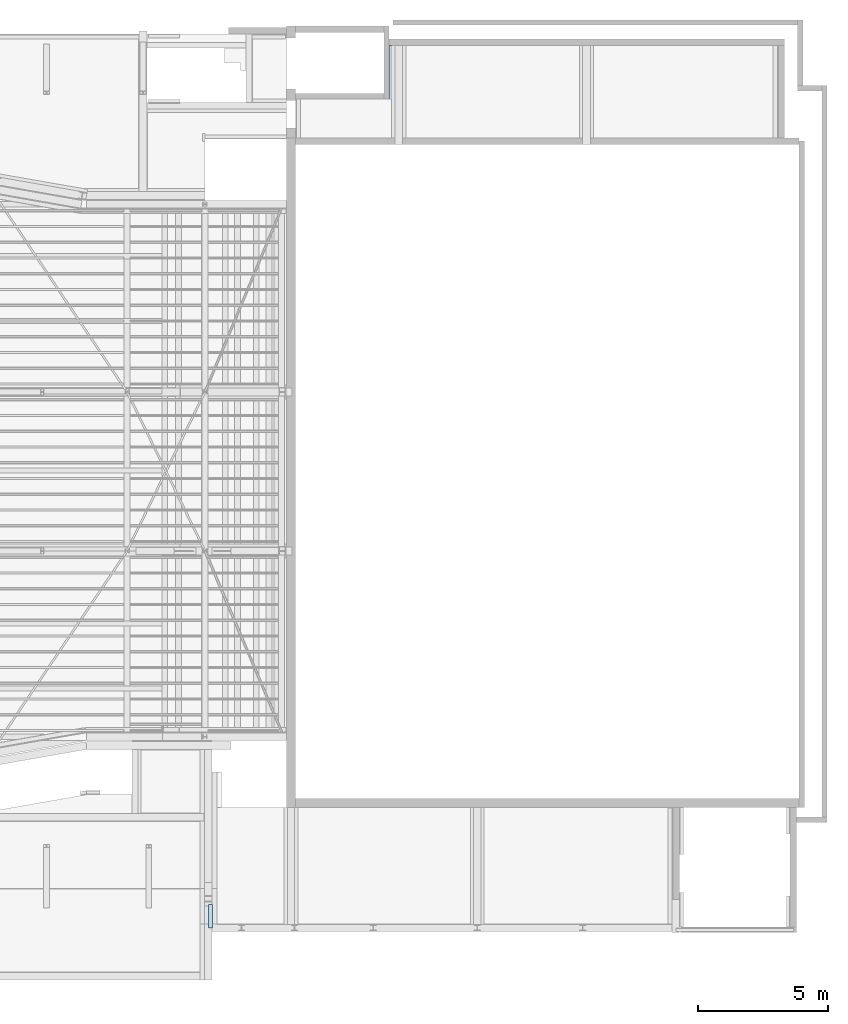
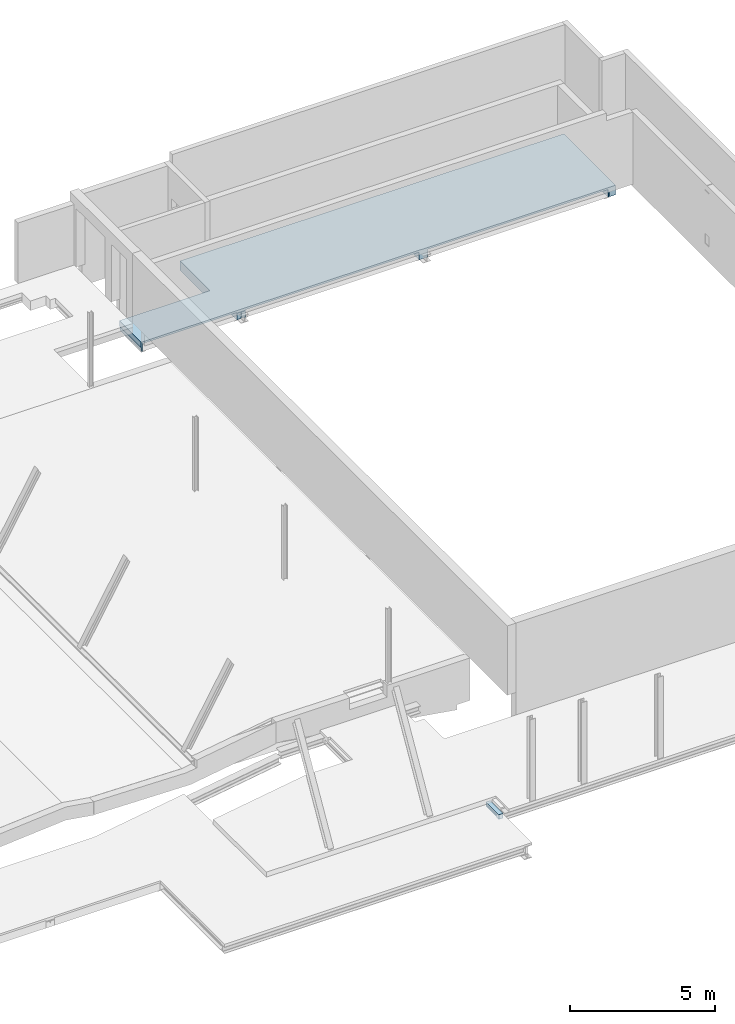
# One storey, part 49 of 50: 2 slabs.
"""IFC2X3 building model written with IfcOpenShell, lengths in millimetres."""

from ifc_helpers import new_model, entity, si_unit, converted_unit, derived_unit, direction, frame, origin, place, context, subcontext, project, spatial, faceted_brep, material, type_object, element, save


model = new_model("IFC2X3")

# Units and contexts
model_context = context("Model", 3, precision=0.01, world=origin(), true_north=direction((6.12303176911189e-17, 1.0)))
body_context = subcontext(model_context, "Body", "Model", "MODEL_VIEW")
ifc_project = project(units=[si_unit("LENGTHUNIT", "METRE", prefix="MILLI"), si_unit("AREAUNIT", "SQUARE_METRE", prefix="MILLI"), si_unit("VOLUMEUNIT", "CUBIC_METRE"), converted_unit("PLANEANGLEUNIT", "DEGREE", entity("IfcRatioMeasure", 0.0174532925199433), si_unit("PLANEANGLEUNIT", "RADIAN"), dimensions=[0, 0, 0, 0, 0, 0, 0]), si_unit("MASSUNIT", "GRAM", prefix="KILO"), derived_unit("MASSDENSITYUNIT", [(si_unit("MASSUNIT", "GRAM", prefix="KILO"), 1), (si_unit("LENGTHUNIT", "METRE"), -3)]), derived_unit("MOMENTOFINERTIAUNIT", [(si_unit("LENGTHUNIT", "METRE"), 4)]), si_unit("TIMEUNIT", "SECOND"), si_unit("FREQUENCYUNIT", "HERTZ"), si_unit("THERMODYNAMICTEMPERATUREUNIT", "DEGREE_CELSIUS"), derived_unit("THERMALTRANSMITTANCEUNIT", [(si_unit("MASSUNIT", "GRAM", prefix="KILO"), 1), (si_unit("THERMODYNAMICTEMPERATUREUNIT", "KELVIN"), -1), (si_unit("TIMEUNIT", "SECOND"), -3)]), derived_unit("VOLUMETRICFLOWRATEUNIT", [(si_unit("LENGTHUNIT", "METRE"), 3), (si_unit("TIMEUNIT", "SECOND"), -1)]), si_unit("ELECTRICCURRENTUNIT", "AMPERE"), si_unit("ELECTRICVOLTAGEUNIT", "VOLT"), si_unit("POWERUNIT", "WATT"), si_unit("FORCEUNIT", "NEWTON", prefix="KILO"), si_unit("ILLUMINANCEUNIT", "LUX"), si_unit("LUMINOUSFLUXUNIT", "LUMEN"), si_unit("LUMINOUSINTENSITYUNIT", "CANDELA"), derived_unit("USERDEFINED", [(si_unit("MASSUNIT", "GRAM", prefix="KILO"), -1), (si_unit("LENGTHUNIT", "METRE"), -2), (si_unit("TIMEUNIT", "SECOND"), 3), (si_unit("LUMINOUSFLUXUNIT", "LUMEN"), 1)]), derived_unit("LINEARVELOCITYUNIT", [(si_unit("LENGTHUNIT", "METRE"), 1), (si_unit("TIMEUNIT", "SECOND"), -1)]), si_unit("PRESSUREUNIT", "PASCAL"), derived_unit("USERDEFINED", [(si_unit("LENGTHUNIT", "METRE"), -2), (si_unit("MASSUNIT", "GRAM", prefix="KILO"), 1), (si_unit("TIMEUNIT", "SECOND"), -2)]), derived_unit("LINEARFORCEUNIT", [(si_unit("MASSUNIT", "GRAM", prefix="KILO"), 1), (si_unit("LENGTHUNIT", "METRE"), 1), (si_unit("TIMEUNIT", "SECOND"), -2), (si_unit("LENGTHUNIT", "METRE"), -1)]), derived_unit("PLANARFORCEUNIT", [(si_unit("MASSUNIT", "GRAM", prefix="KILO"), 1), (si_unit("LENGTHUNIT", "METRE"), 1), (si_unit("TIMEUNIT", "SECOND"), -2), (si_unit("LENGTHUNIT", "METRE"), -2)])], contexts=[model_context])

# Site, building, storey
site_placement = place(None, origin())
site = spatial("IfcSite", under=ifc_project, at=site_placement, Name="Theater aan de Parade", CompositionType="ELEMENT")
building_placement = place(site_placement, origin())
building = spatial("IfcBuilding", under=site, at=building_placement, Name="Theater aan de Parade", CompositionType="ELEMENT")
storey_placement = place(building_placement, frame((0.0, 0.0, 15820.0)))
storey = spatial("IfcBuildingStorey", under=building, at=storey_placement, Name="04 vierde verdieping", CompositionType="ELEMENT", Elevation=15820.0)

# Slabs
ifc_material = material(Name="00_PBT_MAT_beton t.p.g._C30/37")
slab_type_1 = type_object("IfcSlabType", Name="Floor:28_PBT_FL_druklaag_d=80 (=400)_C30/37", PredefinedType="FLOOR")
slab_1_placement = place(storey_placement, origin())
element("IfcSlab", 1, at=slab_1_placement, inside=storey, type_object=slab_type_1, material=ifc_material, Name="Floor:28_PBT_FL_druklaag_d=80 (=400)_C30/37", ObjectType="Floor:28_PBT_FL_druklaag_d=80 (=400)_C30/37", PredefinedType="FLOOR", context=body_context, shape_type="Brep", body=[
    faceted_brep([(67756.256100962, 46761.8723406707, 225.0), (67756.256100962, 45260.0, 225.0), (67731.806201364, 45260.0, 225.0), (67731.806201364, 46761.8723406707, 225.0), (71511.4091214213, 46761.8723406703, 225.0), (71307.0, 46761.8723406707, 225.0), (71307.0, 48822.0, 225.0), (71531.4091214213, 48822.0, 225.0), (71531.4091214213, 45260.0, 225.0), (71511.4091214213, 45260.0, 225.0), (71851.4091214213, 48822.0, 225.0), (71851.4091214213, 45260.0, 225.0), (71831.4091214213, 45260.0, 225.0), (71831.4091214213, 48822.0, 225.0), (79090.0, 48822.0, 225.0), (79090.0, 45260.0, 225.0), (78750.0, 45260.0, 225.0), (78750.0, 48822.0, 225.0), (86279.6182171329, 48822.0, 225.0), (86279.6182171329, 45260.0, 225.0), (86255.0, 45260.0, 225.0), (86255.0, 48822.0, 225.0), (86555.1683175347, 48822.0, 225.0), (86555.1683175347, 45260.0, 225.0), (86305.1683175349, 45260.0, 225.0), (86305.1683175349, 48822.0, 225.0), (86255.0, 45260.0, 545.0), (79090.0, 45260.0, 545.0), (79090.0, 48822.0, 545.0), (86255.0, 48822.0, 545.0), (78750.0, 45260.0, 545.0), (71851.4091214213, 45260.0, 545.0), (71851.4091214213, 48822.0, 545.0), (78750.0, 48822.0, 545.0), (71307.0, 46761.8723406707, 545.0), (71511.4091214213, 46761.8723406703, 545.0), (71511.4091214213, 45260.0, 545.0), (67756.256100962, 45260.0, 545.0), (67756.256100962, 46761.8723406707, 545.0), (67706.2561009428, 46761.8723406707, 625.0), (67706.2561009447, 45260.0, 625.0), (86305.1683175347, 45260.0, 625.0), (86555.1683175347, 45260.0, 625.0), (86555.1683175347, 48822.0, 625.0), (86305.1683175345, 48822.0, 625.0), (71307.0, 48822.0, 625.0), (71307.0, 46761.8723406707, 625.0), (86281.9809881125, 45260.0, 228.414987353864), (86283.7227458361, 45260.0, 230.932404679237), (86284.4455316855, 45260.0, 234.466202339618), (86285.1683175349, 45260.0, 238.0), (86285.1683175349, 45260.0, 391.0), (86287.8043565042, 45260.0, 397.363961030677), (86294.1683175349, 45260.0, 400.0), (86305.1683175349, 45260.0, 400.0), (67706.2561009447, 45260.0, 400.0), (67717.256100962, 45260.0, 400.0), (67723.6200619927, 45260.0, 397.363961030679), (67726.256100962, 45260.0, 391.0), (67726.256100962, 45260.0, 238.0), (67726.9788868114, 45260.0, 234.466202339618), (67727.7016726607, 45260.0, 230.932404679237), (67729.0043020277, 45260.0, 229.049673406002), (71531.4091214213, 45260.0, 239.0), (71648.9091214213, 45260.0, 239.0), (71653.6820921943, 45260.0, 240.977029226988), (71658.4550629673, 45260.0, 242.954058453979), (71663.2280337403, 45260.0, 244.931087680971), (71668.0010045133, 45260.0, 246.908116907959), (71669.9780337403, 45260.0, 251.681087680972), (71671.9550629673, 45260.0, 256.454058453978), (71673.9320921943, 45260.0, 261.227029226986), (71675.9091214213, 45260.0, 266.0), (71675.9091214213, 45260.0, 474.0), (71673.0447060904, 45260.0, 480.915310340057), (71670.5228553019, 45260.0, 487.003596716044), (71668.0010045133, 45260.0, 493.091883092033), (71663.2280337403, 45260.0, 495.068912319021), (71658.4550629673, 45260.0, 497.045941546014), (71653.6820921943, 45260.0, 499.022970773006), (71648.9091214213, 45260.0, 501.0), (71531.4091214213, 45260.0, 501.0), (71531.4091214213, 45260.0, 520.0), (71831.4091214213, 45260.0, 520.0), (71831.4091214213, 45260.0, 501.0), (71713.9091214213, 45260.0, 501.0), (71706.9938110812, 45260.0, 498.135584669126), (71700.9055247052, 45260.0, 495.613733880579), (71694.8172383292, 45260.0, 493.091883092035), (71692.8402091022, 45260.0, 488.318912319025), (71690.8631798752, 45260.0, 483.545941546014), (71688.8861506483, 45260.0, 478.772970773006), (71686.9091214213, 45260.0, 474.0), (71686.9091214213, 45260.0, 266.0), (71689.7735367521, 45260.0, 259.084689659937), (71692.2953875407, 45260.0, 252.99640328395), (71694.8172383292, 45260.0, 246.908116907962), (71699.5902091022, 45260.0, 244.931087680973), (71704.3631798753, 45260.0, 242.954058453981), (71709.1361506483, 45260.0, 240.977029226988), (71713.9091214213, 45260.0, 239.0), (71831.4091214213, 45260.0, 239.0), (67706.2561009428, 46761.8723406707, 400.0), (67706.2561009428, 46761.8723406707, 535.0), (67726.256100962, 46761.8723406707, 391.0), (67723.6200619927, 46761.8723406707, 397.363961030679), (67717.256100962, 46761.8723406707, 400.0), (67729.7539370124, 46761.8723406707, 227.96620233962), (67727.7016726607, 46761.8723406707, 230.932404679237), (67726.9788868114, 46761.8723406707, 234.466202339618), (67726.256100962, 46761.8723406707, 238.0), (71307.0, 46761.8723406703, 535.0), (86305.1683175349, 48822.0, 400.0), (86294.1683175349, 48822.0, 400.0), (86287.8043565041, 48822.0, 397.363961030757), (86285.1683175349, 48822.0, 391.0), (86285.1683175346, 48822.0, 238.0), (86284.4455316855, 48822.0, 234.466202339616), (86283.722745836, 48822.0, 230.932404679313), (86281.6704814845, 48822.0, 227.966202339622), (71831.4091214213, 48822.0, 239.0), (71713.9091214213, 48822.0, 239.0), (71709.1361506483, 48822.0, 240.977029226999), (71704.3631798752, 48822.0, 242.954058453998), (71699.5902091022, 48822.0, 244.931087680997), (71694.8172383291, 48822.0, 246.908116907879), (71692.8402091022, 48822.0, 251.681087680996), (71690.8631798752, 48822.0, 256.454058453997), (71688.8861506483, 48822.0, 261.227029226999), (71686.9091214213, 48822.0, 266.0), (71686.909121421, 48822.0, 474.0), (71688.8861506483, 48822.0, 478.772970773), (71690.8631798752, 48822.0, 483.545941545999), (71692.8402091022, 48822.0, 488.318912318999), (71694.8172383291, 48822.0, 493.091883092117), (71699.5902091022, 48822.0, 495.068912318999), (71704.3631798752, 48822.0, 497.045941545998), (71709.1361506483, 48822.0, 499.022970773), (71713.9091214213, 48822.0, 501.0), (71831.4091214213, 48822.0, 501.0), (71831.4091214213, 48822.0, 520.0), (71531.4091214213, 48822.0, 520.0), (71531.4091214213, 48822.0, 501.0), (71648.9091214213, 48822.0, 501.0), (71653.6820921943, 48822.0, 499.022970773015), (71658.4550629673, 48822.0, 497.045941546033), (71663.2280337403, 48822.0, 495.068912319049), (71668.0010045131, 48822.0, 493.09188309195), (71669.9780337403, 48822.0, 488.318912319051), (71671.9550629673, 48822.0, 483.545941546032), (71673.9320921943, 48822.0, 478.772970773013), (71675.9091214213, 48822.0, 474.0), (71675.909121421, 48822.0, 266.0), (71674.4769137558, 48822.0, 262.542344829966), (71671.9550629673, 48822.0, 256.45405845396), (71669.9780337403, 48822.0, 251.681087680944), (71668.0010045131, 48822.0, 246.908116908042), (71663.2280337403, 48822.0, 244.931087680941), (71658.4550629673, 48822.0, 242.954058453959), (71653.6820921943, 48822.0, 240.977029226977), (71648.9091214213, 48822.0, 239.0), (71531.4091214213, 48822.0, 239.0)], [[[0, 1, 2, 3]], [[4, 5, 6, 7, 8, 9]], [[10, 11, 12, 13]], [[14, 15, 16, 17]], [[18, 19, 20, 21]], [[22, 23, 24, 25]], [[26, 27, 28, 29]], [[30, 31, 32, 33]], [[34, 35, 36, 37, 38]], [[39, 40, 41, 42, 43, 44, 45, 46]], [[20, 19, 47, 48, 49, 50, 51, 52, 53, 54, 24, 23, 42, 41, 40, 55, 56, 57, 58, 59, 60, 61, 62, 2, 1, 37, 36, 9, 8, 63, 64, 65, 66, 67, 68, 69, 70, 71, 72, 73, 74, 75, 76, 77, 78, 79, 80, 81, 82, 83, 84, 85, 86, 87, 88, 89, 90, 91, 92, 93, 94, 95, 96, 97, 98, 99, 100, 101, 12, 11, 31, 30, 16, 15, 27, 26]], [[102, 55, 40, 39, 103]], [[104, 105, 106, 102, 103, 39, 46, 34, 38, 0, 3, 107, 108, 109, 110]], [[6, 5, 111, 34, 46, 45]], [[7, 6, 45, 44, 43, 22, 25, 112, 113, 114, 115, 116, 117, 118, 119, 18, 21, 29, 28, 14, 17, 33, 32, 10, 13, 120, 121, 122, 123, 124, 125, 126, 127, 128, 129, 130, 131, 132, 133, 134, 135, 136, 137, 138, 139, 140, 141, 142, 143, 144, 145, 146, 147, 148, 149, 150, 151, 152, 153, 154, 155, 156, 157, 158, 159, 160, 161]], [[23, 22, 43, 42]], [[110, 59, 58, 104]], [[108, 107, 3, 2, 62, 61]], [[109, 108, 61, 60, 59, 110]], [[106, 56, 55, 102]], [[54, 53, 113, 112]], [[57, 105, 104, 58]], [[56, 106, 105, 57]], [[38, 37, 1, 0]], [[111, 5, 4, 35, 34]], [[84, 83, 140, 139]], [[12, 101, 120, 13]], [[85, 84, 139, 138]], [[81, 80, 143, 142]], [[136, 135, 134, 88, 87, 86, 85, 138, 137]], [[133, 132, 131, 130, 92, 91, 90, 89, 88, 134]], [[93, 92, 130, 129]], [[127, 126, 125, 96, 95, 94, 93, 129, 128]], [[124, 123, 122, 121, 100, 99, 98, 97, 96, 125]], [[101, 100, 121, 120]], [[64, 63, 161, 160]], [[63, 8, 7, 161]], [[82, 81, 142, 141]], [[65, 64, 160, 159, 158, 157, 156, 68, 67, 66]], [[69, 68, 156, 155, 154, 153, 152, 72, 71, 70]], [[73, 72, 152, 151]], [[149, 148, 147, 76, 75, 74, 73, 151, 150]], [[146, 145, 144, 143, 80, 79, 78, 77, 76, 147]], [[83, 82, 141, 140]], [[27, 15, 14, 28]], [[16, 30, 33, 17]], [[4, 9, 36, 35]], [[10, 32, 31, 11]], [[26, 29, 21, 20]], [[24, 54, 112, 25]], [[51, 50, 116, 115]], [[48, 47, 19, 18, 119, 118]], [[49, 48, 118, 117, 116, 50]], [[51, 115, 114, 52]], [[114, 113, 53, 52]]]),
])
slab_type_2 = type_object("IfcSlabType", Name="Floor:28_PBT_FL_druklaag_d=80 (=195)_C30/37", PredefinedType="FLOOR")
slab_2_placement = place(storey_placement, origin())
element("IfcSlab", 2, at=slab_2_placement, inside=storey, type_object=slab_type_2, material=ifc_material, Name="Floor:28_PBT_FL_druklaag_d=80 (=195)_C30/37", ObjectType="Floor:28_PBT_FL_druklaag_d=80 (=195)_C30/37", PredefinedType="FLOOR", context=body_context, shape_type="Brep", body=[
    faceted_brep([(64352.0520755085, 14982.0, 220.0), (64352.0520755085, 15716.8033360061, 220.0), (64514.5520755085, 15716.8033360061, 220.0), (64514.5520755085, 14822.0, 220.0), (64494.5520755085, 14822.0, 220.0), (64344.5520755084, 14822.0, 220.0), (64344.5520755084, 14982.0, 220.0), (64344.5520755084, 15716.8033360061, 415.0), (64344.5520755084, 14822.0, 415.0), (64494.5520755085, 14822.0, 415.0), (64514.5520755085, 14822.0, 415.0), (64514.5520755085, 15716.8033360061, 415.0), (64344.5520755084, 14822.0, 335.0), (64344.5520755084, 15716.8033360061, 335.0), (64344.5520755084, 14982.0, 335.0), (64379.0520755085, 15716.8033360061, 306.0), (64494.5520755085, 15716.8033360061, 306.0), (64494.5520755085, 15716.8033360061, 335.0), (64352.0520755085, 15716.8033360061, 279.0), (64354.0291047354, 15716.8033360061, 283.772970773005), (64356.0061339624, 15716.8033360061, 288.545941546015), (64357.9831631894, 15716.8033360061, 293.318912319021), (64359.9601924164, 15716.8033360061, 298.091883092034), (64364.7331631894, 15716.8033360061, 300.068912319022), (64369.5061339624, 15716.8033360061, 302.045941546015), (64374.2791047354, 15716.8033360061, 304.022970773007), (64494.5520755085, 14982.0, 335.0), (64494.5520755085, 14982.0, 306.0), (64379.0520755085, 14982.0, 306.0), (64374.2791047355, 14982.0, 304.022970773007), (64369.5061339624, 14982.0, 302.045941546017), (64364.7331631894, 14982.0, 300.068912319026), (64359.9601924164, 14982.0, 298.091883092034), (64357.7418105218, 14982.0, 292.736235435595), (64355.5234286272, 14982.0, 287.380587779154), (64352.0520755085, 14982.0, 279.0)], [[[0, 1, 2, 3, 4, 5, 6]], [[7, 8, 9, 10, 11]], [[4, 3, 10, 9, 8, 12, 5]], [[6, 5, 12, 8, 7, 13, 14]], [[15, 16, 17, 13, 7, 11, 2, 1, 18, 19, 20, 21, 22, 23, 24, 25]], [[3, 2, 11, 10]], [[0, 6, 14, 26, 27, 28, 29, 30, 31, 32, 33, 34, 35]], [[1, 0, 35, 18]], [[34, 33, 32, 22, 21, 20, 19, 18, 35]], [[22, 32, 31, 30, 29, 28, 15, 25, 24, 23]], [[16, 15, 28, 27]], [[17, 16, 27, 26]], [[13, 17, 26, 14]]]),
])

save(model, "model.ifc")
